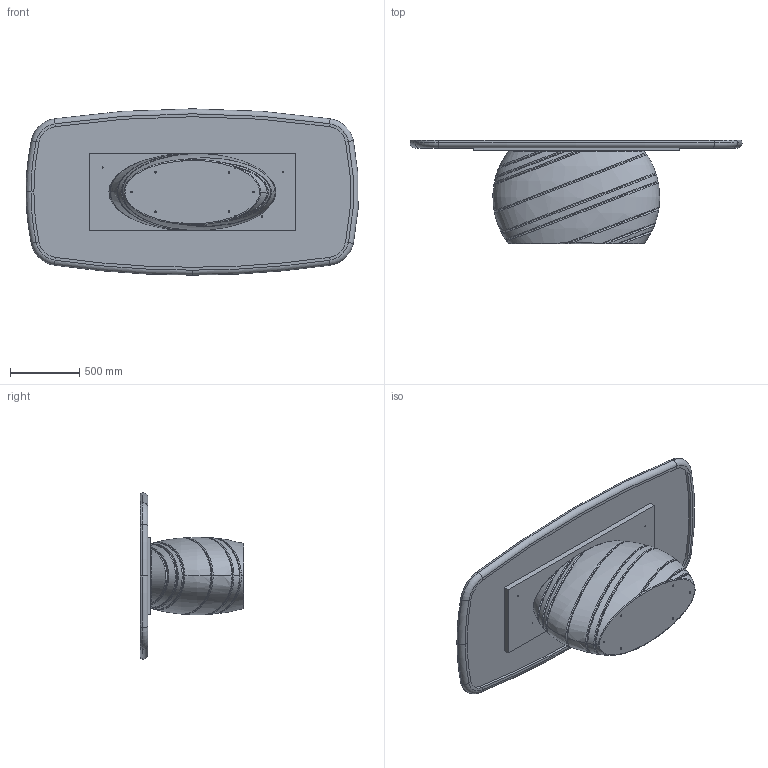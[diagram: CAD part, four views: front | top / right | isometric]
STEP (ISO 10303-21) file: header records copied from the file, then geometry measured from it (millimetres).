
FILE_DESCRIPTION (( 'STEP AP203' ), '1' );
FILE_NAME ('king 240x120 sag.STEP', '2025-05-26T14:03:17', ( '' ), ( '' ), 'SwSTEP 2.0', 'SolidWorks 2022', '' );
FILE_SCHEMA (( 'CONFIG_CONTROL_DESIGN' ));
Length unit declared in the file: millimetre
Products named in the file (3): GIB000xxx-00-BASE GIOVE X 300; king 240x120 sag; PIANI_modello 3D x web_King 240x120
Assembly tree (2 placements, depth 2):
  king 240x120 sag
    PIANI_modello 3D x web_King 240x120
    GIB000xxx-00-BASE GIOVE X 300
Bounding box: 2395.81 x 748 x 1200 mm (x, y, z)
Volume: 450715906 mm3; surface area: 15442293.8 mm2
Topology: 4 solids, 4 shells, 220 faces, 522 edges, 325 vertices
Faces by surface type: cylinder 72, bspline 53, plane 51, cone 24, torus 20
Entity records: 39008 total; most frequent: CARTESIAN_POINT 33895, ORIENTED_EDGE 1044, DIRECTION 944, EDGE_CURVE 522, AXIS2_PLACEMENT_3D 403, VERTEX_POINT 325, EDGE_LOOP 255, CIRCLE 231
